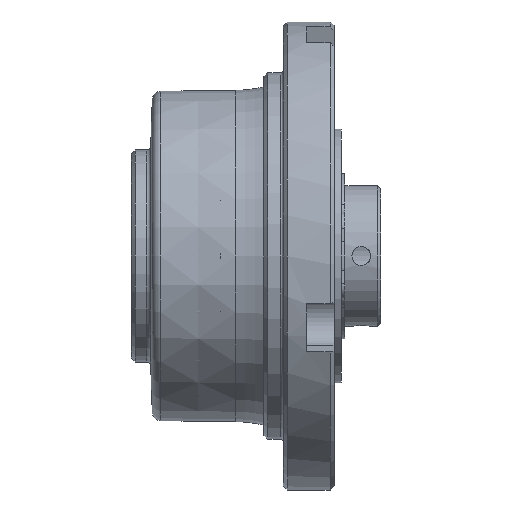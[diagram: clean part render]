
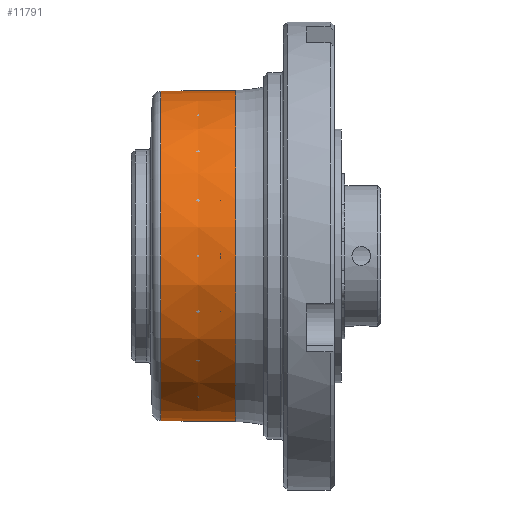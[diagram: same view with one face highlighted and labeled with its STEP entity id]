
A CAD part, front view. The second image highlights one B-rep face of the part: STEP entity #11791.
In plain terms, the highlighted conical face has half-angle 0.7 degrees and reference radius 21.239 mm.
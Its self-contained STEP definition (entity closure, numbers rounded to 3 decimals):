
#1057 = VECTOR ( 'NONE', #12280, 1000. ) ;
#1075 = LINE ( 'NONE', #8627, #7419 ) ;
#1687 = CARTESIAN_POINT ( 'NONE',  ( 3.787, 0., -21.121 ) ) ;
#2246 = CONICAL_SURFACE ( 'NONE', #3786, 21.239, 0.012 ) ;
#2406 = ORIENTED_EDGE ( 'NONE', *, *, #15643, .F. ) ;
#3434 = CARTESIAN_POINT ( 'NONE',  ( 13.393, 0., 21.239 ) ) ;
#3572 = AXIS2_PLACEMENT_3D ( 'NONE', #6599, #15464, #7852 ) ;
#3716 = ORIENTED_EDGE ( 'NONE', *, *, #15009, .F. ) ;
#3786 = AXIS2_PLACEMENT_3D ( 'NONE', #14101, #11560, #5304 ) ;
#5255 = EDGE_CURVE ( 'NONE', #16251, #15446, #6571, .T. ) ;
#5304 = DIRECTION ( 'NONE',  ( 0., 0., -1. ) ) ;
#5972 = CARTESIAN_POINT ( 'NONE',  ( 3.787, 0., 0. ) ) ;
#6041 = FACE_OUTER_BOUND ( 'NONE', #14652, .T. ) ;
#6571 = CIRCLE ( 'NONE', #3572, 21.239 ) ;
#6599 = CARTESIAN_POINT ( 'NONE',  ( 13.393, 0., 0. ) ) ;
#6874 = VERTEX_POINT ( 'NONE', #1687 ) ;
#7206 = DIRECTION ( 'NONE',  ( 0., 0., 1. ) ) ;
#7419 = VECTOR ( 'NONE', #9912, 1000. ) ;
#7786 = LINE ( 'NONE', #3434, #1057 ) ;
#7852 = DIRECTION ( 'NONE',  ( 0., 0., 1. ) ) ;
#8627 = CARTESIAN_POINT ( 'NONE',  ( 13.393, 0., -21.239 ) ) ;
#9017 = AXIS2_PLACEMENT_3D ( 'NONE', #5972, #14779, #7206 ) ;
#9912 = DIRECTION ( 'NONE',  ( 1., 0., -0.012 ) ) ;
#10442 = ORIENTED_EDGE ( 'NONE', *, *, #15101, .T. ) ;
#11098 = CARTESIAN_POINT ( 'NONE',  ( 13.393, 0., -21.239 ) ) ;
#11560 = DIRECTION ( 'NONE',  ( 1., 0., 0. ) ) ;
#11791 = ADVANCED_FACE ( 'NONE', ( #6041 ), #2246, .T. ) ;
#12280 = DIRECTION ( 'NONE',  ( 1., 0., 0.012 ) ) ;
#13561 = ORIENTED_EDGE ( 'NONE', *, *, #5255, .T. ) ;
#14101 = CARTESIAN_POINT ( 'NONE',  ( 13.393, 0., 0. ) ) ;
#14652 = EDGE_LOOP ( 'NONE', ( #2406, #3716, #10442, #13561 ) ) ;
#14779 = DIRECTION ( 'NONE',  ( -1., 0., 0. ) ) ;
#15009 = EDGE_CURVE ( 'NONE', #6874, #15582, #15773, .T. ) ;
#15101 = EDGE_CURVE ( 'NONE', #6874, #16251, #1075, .T. ) ;
#15446 = VERTEX_POINT ( 'NONE', #15781 ) ;
#15464 = DIRECTION ( 'NONE',  ( -1., 0., 0. ) ) ;
#15582 = VERTEX_POINT ( 'NONE', #16018 ) ;
#15643 = EDGE_CURVE ( 'NONE', #15582, #15446, #7786, .T. ) ;
#15773 = CIRCLE ( 'NONE', #9017, 21.121 ) ;
#15781 = CARTESIAN_POINT ( 'NONE',  ( 13.393, 0., 21.239 ) ) ;
#16018 = CARTESIAN_POINT ( 'NONE',  ( 3.787, 0., 21.121 ) ) ;
#16251 = VERTEX_POINT ( 'NONE', #11098 ) ;
